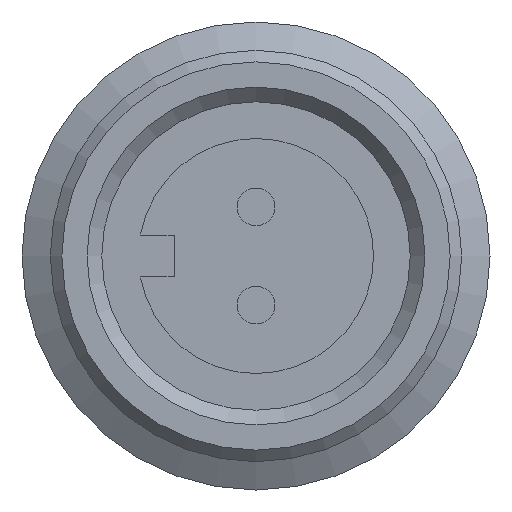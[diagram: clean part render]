
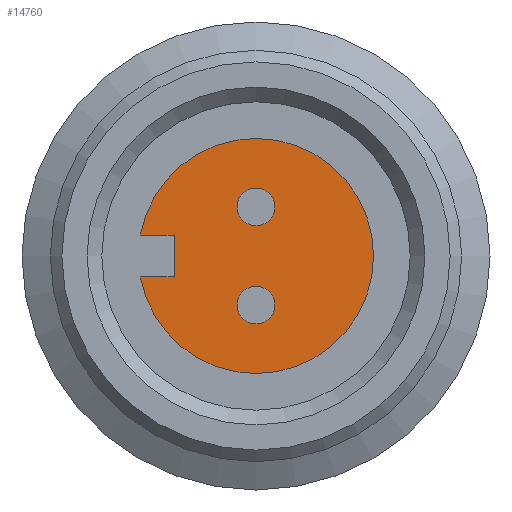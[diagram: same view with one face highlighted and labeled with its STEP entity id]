
A CAD part, left-side view. The second image highlights one B-rep face of the part: STEP entity #14760.
In plain terms, the highlighted planar face has unit normal (-1, 0, 0).
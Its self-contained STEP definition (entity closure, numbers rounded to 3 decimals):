
#82 = VERTEX_POINT ( 'NONE', #4259 ) ;
#1318 = VERTEX_POINT ( 'NONE', #16034 ) ;
#1623 = CARTESIAN_POINT ( 'NONE',  ( -55.1, 0., 0. ) ) ;
#1686 = CIRCLE ( 'NONE', #20752, 0.9 ) ;
#2309 = VERTEX_POINT ( 'NONE', #3106 ) ;
#2437 = LINE ( 'NONE', #3087, #10092 ) ;
#2696 = ORIENTED_EDGE ( 'NONE', *, *, #17495, .F. ) ;
#2981 = CARTESIAN_POINT ( 'NONE',  ( -55.1, 0., 3.24 ) ) ;
#2984 = EDGE_CURVE ( 'NONE', #4819, #4819, #18571, .T. ) ;
#3048 = CARTESIAN_POINT ( 'NONE',  ( -55.1, 3.9, 1. ) ) ;
#3087 = CARTESIAN_POINT ( 'NONE',  ( -55.1, 0., -1. ) ) ;
#3106 = CARTESIAN_POINT ( 'NONE',  ( -55.1, 3.9, -1. ) ) ;
#3148 = VERTEX_POINT ( 'NONE', #2981 ) ;
#4259 = CARTESIAN_POINT ( 'NONE',  ( -55.1, 5.51, 1. ) ) ;
#4503 = CARTESIAN_POINT ( 'NONE',  ( -55.1, 3.9, 1. ) ) ;
#4819 = VERTEX_POINT ( 'NONE', #15924 ) ;
#5197 = ORIENTED_EDGE ( 'NONE', *, *, #12184, .F. ) ;
#5502 = EDGE_LOOP ( 'NONE', ( #10718 ) ) ;
#5947 = VERTEX_POINT ( 'NONE', #4503 ) ;
#6167 = ORIENTED_EDGE ( 'NONE', *, *, #20423, .T. ) ;
#8189 = DIRECTION ( 'NONE',  ( -1., 0., 0. ) ) ;
#8529 = DIRECTION ( 'NONE',  ( 0., 0., 1. ) ) ;
#8901 = FACE_BOUND ( 'NONE', #13315, .T. ) ;
#10084 = EDGE_CURVE ( 'NONE', #3148, #3148, #1686, .T. ) ;
#10092 = VECTOR ( 'NONE', #15078, 1000. ) ;
#10138 = DIRECTION ( 'NONE',  ( 1., 0., 0. ) ) ;
#10292 = PLANE ( 'NONE',  #12584 ) ;
#10718 = ORIENTED_EDGE ( 'NONE', *, *, #10084, .F. ) ;
#10997 = FACE_BOUND ( 'NONE', #5502, .T. ) ;
#11254 = FACE_OUTER_BOUND ( 'NONE', #12554, .T. ) ;
#11338 = CARTESIAN_POINT ( 'NONE',  ( -55.1, 0., 1. ) ) ;
#11606 = AXIS2_PLACEMENT_3D ( 'NONE', #16627, #8189, #21710 ) ;
#11685 = DIRECTION ( 'NONE',  ( 1., 0., 0. ) ) ;
#12184 = EDGE_CURVE ( 'NONE', #82, #1318, #13705, .T. ) ;
#12554 = EDGE_LOOP ( 'NONE', ( #5197, #2696, #6167, #20570 ) ) ;
#12584 = AXIS2_PLACEMENT_3D ( 'NONE', #1623, #11685, #16966 ) ;
#13315 = EDGE_LOOP ( 'NONE', ( #17773 ) ) ;
#13485 = VECTOR ( 'NONE', #16538, 1000. ) ;
#13705 = CIRCLE ( 'NONE', #13715, 5.6 ) ;
#13715 = AXIS2_PLACEMENT_3D ( 'NONE', #18654, #10138, #8529 ) ;
#14760 = ADVANCED_FACE ( 'NONE', ( #10997, #8901, #11254 ), #10292, .F. ) ;
#14762 = DIRECTION ( 'NONE',  ( -1., 0., 0. ) ) ;
#15078 = DIRECTION ( 'NONE',  ( 0., -1., 0. ) ) ;
#15924 = CARTESIAN_POINT ( 'NONE',  ( -55.1, 0., -1.44 ) ) ;
#16034 = CARTESIAN_POINT ( 'NONE',  ( -55.1, 5.51, -1. ) ) ;
#16538 = DIRECTION ( 'NONE',  ( 0., 0., -1. ) ) ;
#16627 = CARTESIAN_POINT ( 'NONE',  ( -55.1, 0., -2.34 ) ) ;
#16966 = DIRECTION ( 'NONE',  ( 0., 0., -1. ) ) ;
#17495 = EDGE_CURVE ( 'NONE', #5947, #82, #19870, .T. ) ;
#17773 = ORIENTED_EDGE ( 'NONE', *, *, #2984, .F. ) ;
#18020 = VECTOR ( 'NONE', #18295, 1000. ) ;
#18084 = CARTESIAN_POINT ( 'NONE',  ( -55.1, 0., 2.34 ) ) ;
#18295 = DIRECTION ( 'NONE',  ( 0., 1., 0. ) ) ;
#18571 = CIRCLE ( 'NONE', #11606, 0.9 ) ;
#18654 = CARTESIAN_POINT ( 'NONE',  ( -55.1, 0., 0. ) ) ;
#19319 = LINE ( 'NONE', #3048, #13485 ) ;
#19870 = LINE ( 'NONE', #11338, #18020 ) ;
#20423 = EDGE_CURVE ( 'NONE', #5947, #2309, #19319, .T. ) ;
#20570 = ORIENTED_EDGE ( 'NONE', *, *, #21577, .F. ) ;
#20752 = AXIS2_PLACEMENT_3D ( 'NONE', #18084, #14762, #21268 ) ;
#21268 = DIRECTION ( 'NONE',  ( 0., 0., 1. ) ) ;
#21577 = EDGE_CURVE ( 'NONE', #1318, #2309, #2437, .T. ) ;
#21710 = DIRECTION ( 'NONE',  ( 0., 0., 1. ) ) ;
